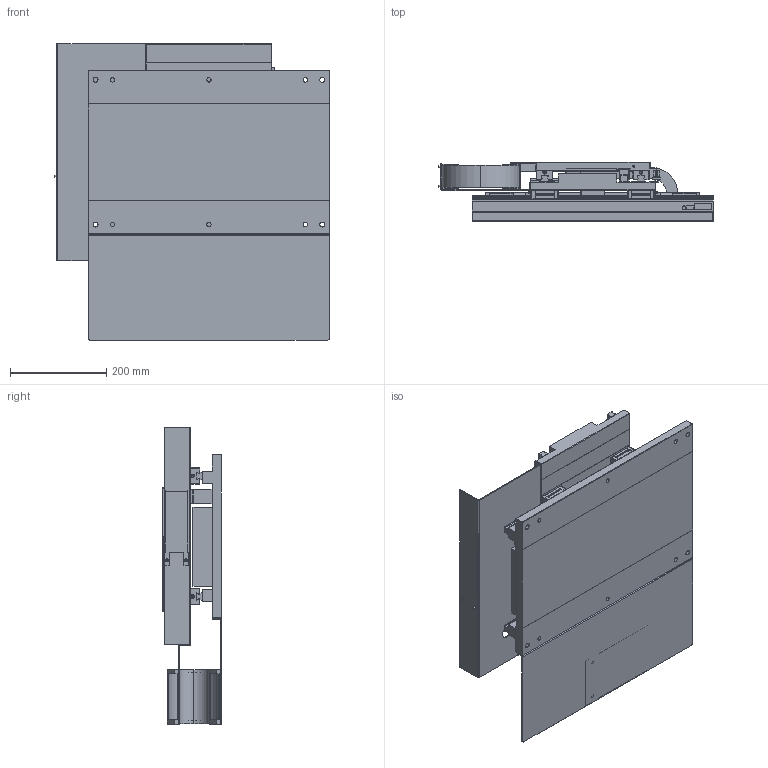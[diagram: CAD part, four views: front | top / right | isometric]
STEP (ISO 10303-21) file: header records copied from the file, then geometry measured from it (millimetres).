
FILE_DESCRIPTION (( 'STEP AP214' ), '1' );
FILE_NAME ('NST-D20B320A3BPNC_#2.00_0.STEP', '2021-03-25T08:14:05', ( '' ), ( '' ), 'SwSTEP 2.0', 'SolidWorks 2018', '' );
FILE_SCHEMA (( 'AUTOMOTIVE_DESIGN' ));
Length unit declared in the file: millimetre
Products named in the file (6): NST-D20B320A3BPNC_#2.00_0; AUA00250; AUA01860; AUA01850; AUA01660; 17YK0090_Org
Assembly tree (5 placements, depth 2):
  NST-D20B320A3BPNC_#2.00_0
    AUA01850
    AUA01860
    AUA01660
    AUA00250
    17YK0090_Org
Bounding box: 570 x 122 x 615 mm (x, y, z)
Volume: 12345791.9 mm3; surface area: 2139786.2 mm2
Topology: 49 solids, 49 shells, 2025 faces, 5264 edges, 3355 vertices
Faces by surface type: plane 1518, cylinder 465, cone 22, sphere 16, bspline 4
Entity records: 82151 total; most frequent: CARTESIAN_POINT 10874, ORIENTED_EDGE 10420, DIRECTION 10199, EDGE_CURVE 5210, LINE 4187, VECTOR 4187, VERTEX_POINT 3339, AXIS2_PLACEMENT_3D 3006
